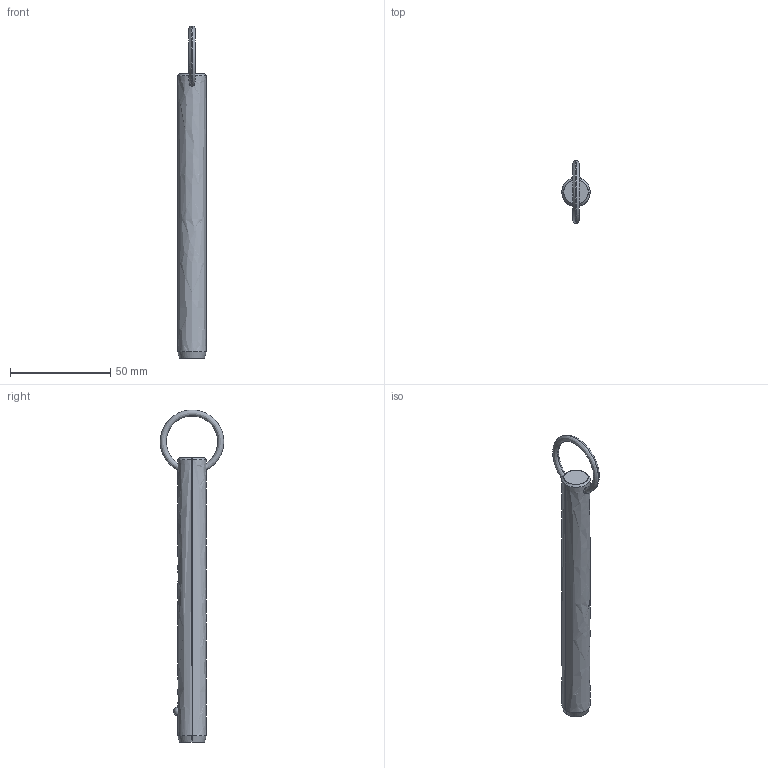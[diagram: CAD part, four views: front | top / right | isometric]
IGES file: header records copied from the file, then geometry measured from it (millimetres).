
Start section: SolidWorks IGES file using analytic representation for surfaces
Global section: file name: C:\Users\liam_\OneDrive\Documents\WORK\Work for WixRoyd\Job Files\J-00019 - Matt Davis CAD Checking\04. CAD Drawings\automotion20190605\P1250.2_v2\P1250.2_v2_20190729_IGES\P1250.056-460.igs; native system: SolidWorks 2017; preprocessor: SolidWorks 2017; author: liam_; date: 190729.232336; units: millimetre
Bounding box: 14.2 x 31.69 x 165.9 mm (x, y, z)
Surface area: 7305 mm2 (no closed solid volume)
Topology: 0 solids, 0 shells, 12 faces, 285 edges, 283 vertices
Faces by surface type: revolution 8, bspline 4
